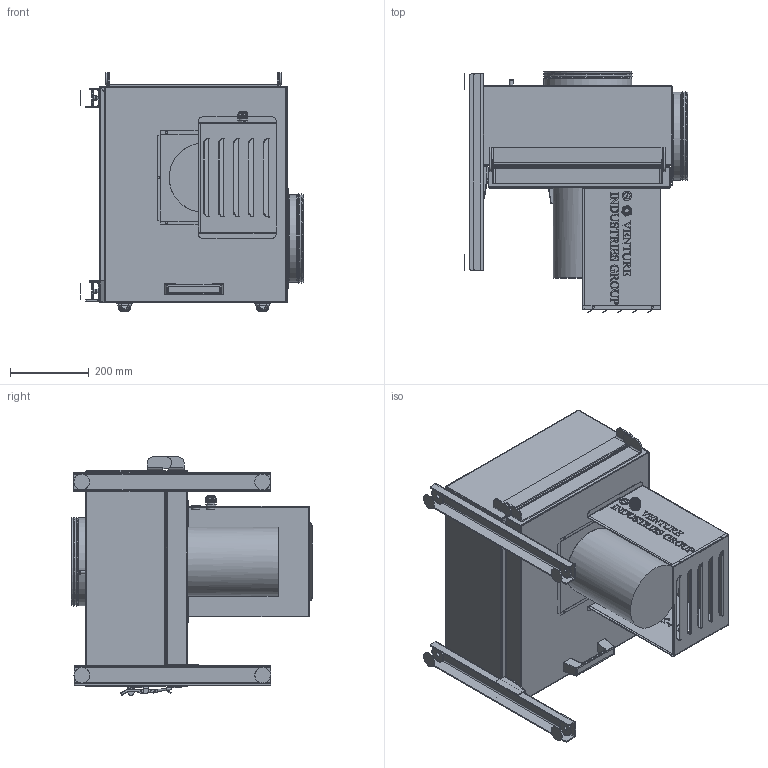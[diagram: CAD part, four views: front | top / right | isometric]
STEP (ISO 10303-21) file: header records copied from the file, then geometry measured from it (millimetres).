
FILE_DESCRIPTION(/* description */ (''),/* implementation_level */ '2;1');
FILE_NAME(/* name */ 'E:\iNVENTOR\KEF\KEF_4-225_104-xxx_45013040_435013045\KEF_4-225_104-xxx_45013040_435013045.stp',/* time_stamp */ '2019-07-04T15:41:14+02:00',/* author */ ('BartoszLac'),/* organization */ (''),/* preprocessor_version */ 'ST-DEVELOPER v17',/* originating_system */ 'Autodesk Inventor 2019',/* authorisation */ '');
FILE_SCHEMA (('AUTOMOTIVE_DESIGN { 1 0 10303 214 3 1 1 }'));
Products named in the file (1): 2 888 122 520 1
Bounding box: 569.28 x 613.54 x 607 mm (x, y, z)
Volume: 37557987.5 mm3; surface area: 4767684.8 mm2
Topology: 10 solids, 20 shells, 4108 faces, 11390 edges, 7372 vertices
Faces by surface type: plane 2705, cylinder 626, bspline 563, cone 139, torus 74, sphere 1
Full cylindrical faces by diameter (mm): 3 x6, 5 x31, 6 x12, 7 x2, 8 x4, 8.6 x8, 9 x1, 10 x4, 10.9 x4, 11.5 x2, 13 x1, 13.5 x1, 15 x2, 16 x6, 20 x4, 21 x1, 23 x1, 24 x1, 40.4 x4, 176 x2, 221.331 x7, 222.8 x2, 222.948 x4, 223.047 x2, 224 x2, 227.272 x4, 252.8 x2, 253 x1
Entity records: 142921 total; most frequent: CARTESIAN_POINT 37143, ORIENTED_EDGE 22760, DIRECTION 19385, EDGE_CURVE 11380, LINE 7615, VECTOR 7615, VERTEX_POINT 7372, AXIS2_PLACEMENT_3D 5885
